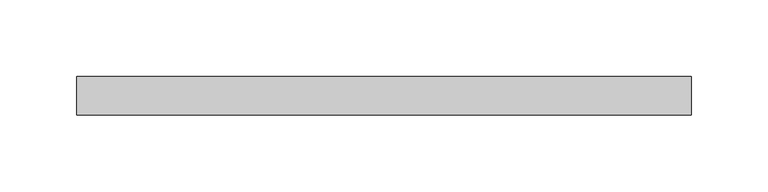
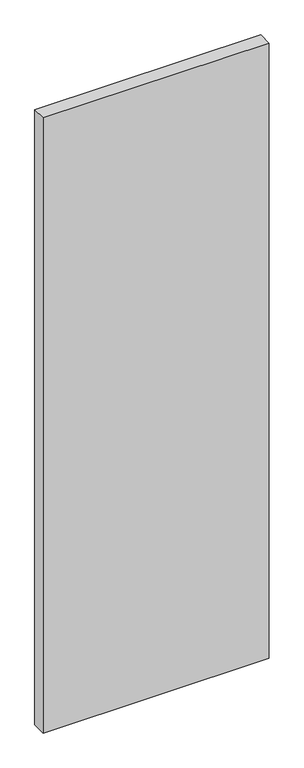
"""IFC4 building model written with IfcOpenShell, lengths in millimetres: plate geometry, Системная панель : С остеклением."""

from ifc_helpers import new_model, si_unit, origin, origin_with_axes, place, context, project, spatial, polyline, outline, extrude, source, transform, mapped, element, save


def plate_a3cc9f68(model_context):
    return source(origin(), model_context, "Body", "SweptSolid", [
        extrude(outline(polyline([(199.9999998, 24.5), (-199.9999998, 24.5), (-199.9999998, 49.5), (199.9999998, 49.5), (199.9999998, 24.5)])), origin_with_axes(), (0.0, 0.0, 1.0), 1150.0),
    ])


if __name__ == "__main__":
    model = new_model("IFC4")
    model_context = context("Model", 3, world=origin())
    ifc_project = project(units=[si_unit("LENGTHUNIT", "METRE", prefix="MILLI")], contexts=[model_context])
    site = spatial("IfcSite", under=ifc_project)
    building = spatial("IfcBuilding", under=site)
    placement = place(None, origin())
    plate_shape = plate_a3cc9f68(model_context)
    element("IfcPlate", 1, ObjectType="Системная панель : С остеклением", at=placement, inside=building, context=model_context, shape_type="MappedRepresentation", body=[
        mapped(plate_shape, transform((0.0, 0.0, 0.0), x_axis=(1.0, 0.0, 0.0), y_axis=(0.0, 1.0, 0.0), z_axis=(0.0, 0.0, 1.0))),
    ])
    save(model, "model.ifc")
